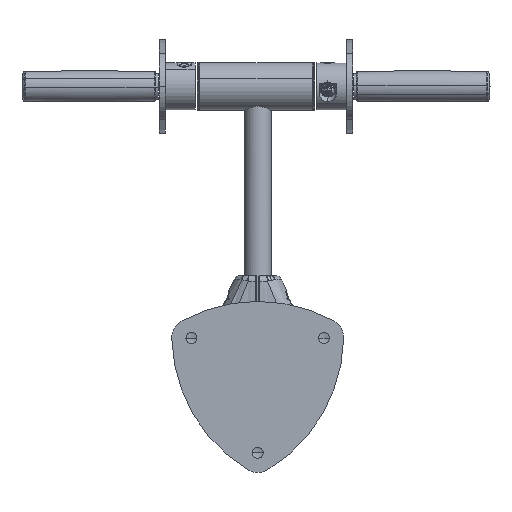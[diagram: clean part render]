
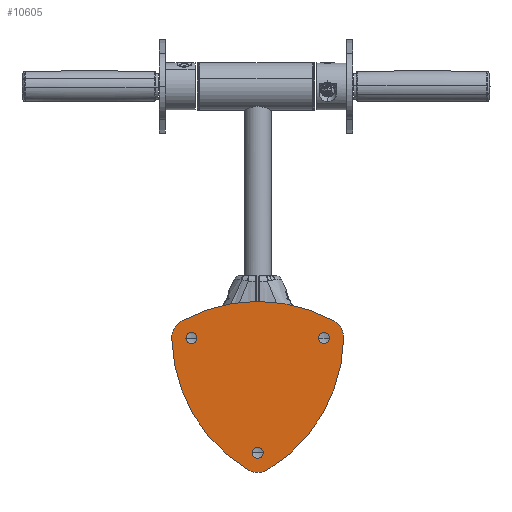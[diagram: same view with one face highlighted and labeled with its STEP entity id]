
A CAD part, front view. The second image highlights one B-rep face of the part: STEP entity #10605.
In plain terms, the highlighted planar face has unit normal (0, -1, 0).
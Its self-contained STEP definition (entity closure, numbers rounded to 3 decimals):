
#148 = ORIENTED_EDGE ( 'NONE', *, *, #14192, .F. ) ;
#188 = DIRECTION ( 'NONE',  ( 0., 1., 0. ) ) ;
#487 = CARTESIAN_POINT ( 'NONE',  ( 5.358, 0., -902.976 ) ) ;
#573 = CARTESIAN_POINT ( 'NONE',  ( -78.777, 0., -750.251 ) ) ;
#657 = DIRECTION ( 'NONE',  ( 0., 1., 0. ) ) ;
#784 = DIRECTION ( 'NONE',  ( 0., 0., 1. ) ) ;
#910 = CIRCLE ( 'NONE', #17119, 7. ) ;
#993 = EDGE_LOOP ( 'NONE', ( #8082, #12802 ) ) ;
#1379 = EDGE_LOOP ( 'NONE', ( #15187, #5976 ) ) ;
#1656 = CARTESIAN_POINT ( 'NONE',  ( 89.492, 0., -750.251 ) ) ;
#1662 = CIRCLE ( 'NONE', #13715, 25. ) ;
#1944 = AXIS2_PLACEMENT_3D ( 'NONE', #6043, #8822, #4994 ) ;
#2299 = DIRECTION ( 'NONE',  ( 0., 0., 1. ) ) ;
#2393 = CARTESIAN_POINT ( 'NONE',  ( 5.358, 0., -903.7 ) ) ;
#2652 = VERTEX_POINT ( 'NONE', #6133 ) ;
#2667 = AXIS2_PLACEMENT_3D ( 'NONE', #12030, #17763, #17658 ) ;
#2738 = EDGE_CURVE ( 'NONE', #11346, #2798, #5704, .T. ) ;
#2798 = VERTEX_POINT ( 'NONE', #13495 ) ;
#3181 = FACE_OUTER_BOUND ( 'NONE', #17885, .T. ) ;
#3283 = CARTESIAN_POINT ( 'NONE',  ( 5.358, 0., -895.976 ) ) ;
#3453 = EDGE_CURVE ( 'NONE', #2652, #12821, #12169, .T. ) ;
#3606 = DIRECTION ( 'NONE',  ( 0., 0., 1. ) ) ;
#3879 = DIRECTION ( 'NONE',  ( 0., 0., -1. ) ) ;
#3915 = VERTEX_POINT ( 'NONE', #6738 ) ;
#3919 = DIRECTION ( 'NONE',  ( 0., 1., 0. ) ) ;
#4113 = CIRCLE ( 'NONE', #10036, 7. ) ;
#4214 = CIRCLE ( 'NONE', #13067, 25. ) ;
#4276 = FACE_BOUND ( 'NONE', #1379, .T. ) ;
#4359 = PLANE ( 'NONE',  #14336 ) ;
#4372 = ORIENTED_EDGE ( 'NONE', *, *, #4961, .F. ) ;
#4744 = CIRCLE ( 'NONE', #15962, 200. ) ;
#4777 = CARTESIAN_POINT ( 'NONE',  ( 114.486, 0., -750.803 ) ) ;
#4904 = VERTEX_POINT ( 'NONE', #15720 ) ;
#4961 = EDGE_CURVE ( 'NONE', #12821, #3915, #4214, .T. ) ;
#4994 = DIRECTION ( 'NONE',  ( 0., 0., -1. ) ) ;
#5012 = CARTESIAN_POINT ( 'NONE',  ( -78.777, 0., -750.251 ) ) ;
#5076 = EDGE_CURVE ( 'NONE', #12990, #13097, #15147, .T. ) ;
#5508 = EDGE_CURVE ( 'NONE', #15524, #14257, #7203, .T. ) ;
#5704 = CIRCLE ( 'NONE', #10419, 7. ) ;
#5976 = ORIENTED_EDGE ( 'NONE', *, *, #16375, .T. ) ;
#6043 = CARTESIAN_POINT ( 'NONE',  ( -85.465, 0., -746.39 ) ) ;
#6133 = CARTESIAN_POINT ( 'NONE',  ( -7.617, 0., -917.346 ) ) ;
#6473 = DIRECTION ( 'NONE',  ( 0., 1., 0. ) ) ;
#6738 = CARTESIAN_POINT ( 'NONE',  ( -90.796, 0., -728.33 ) ) ;
#7039 = ORIENTED_EDGE ( 'NONE', *, *, #9915, .F. ) ;
#7203 = CIRCLE ( 'NONE', #15461, 7. ) ;
#7414 = DIRECTION ( 'NONE',  ( 0., 1., 0. ) ) ;
#7685 = EDGE_LOOP ( 'NONE', ( #8654, #8266 ) ) ;
#7898 = AXIS2_PLACEMENT_3D ( 'NONE', #13548, #657, #13195 ) ;
#7951 = AXIS2_PLACEMENT_3D ( 'NONE', #9653, #3919, #13885 ) ;
#8015 = ORIENTED_EDGE ( 'NONE', *, *, #5076, .F. ) ;
#8082 = ORIENTED_EDGE ( 'NONE', *, *, #13999, .T. ) ;
#8266 = ORIENTED_EDGE ( 'NONE', *, *, #16480, .T. ) ;
#8314 = CARTESIAN_POINT ( 'NONE',  ( -103.771, 0., -750.803 ) ) ;
#8363 = AXIS2_PLACEMENT_3D ( 'NONE', #16344, #6473, #3879 ) ;
#8654 = ORIENTED_EDGE ( 'NONE', *, *, #2738, .T. ) ;
#8699 = DIRECTION ( 'NONE',  ( 0., 0., 1. ) ) ;
#8822 = DIRECTION ( 'NONE',  ( 0., 1., 0. ) ) ;
#8916 = AXIS2_PLACEMENT_3D ( 'NONE', #11837, #11659, #8699 ) ;
#9306 = CARTESIAN_POINT ( 'NONE',  ( 101.511, 0., -728.33 ) ) ;
#9328 = EDGE_CURVE ( 'NONE', #14979, #14721, #12078, .T. ) ;
#9653 = CARTESIAN_POINT ( 'NONE',  ( 5.358, 0., -895.976 ) ) ;
#9870 = DIRECTION ( 'NONE',  ( 0., 0., 1. ) ) ;
#9915 = EDGE_CURVE ( 'NONE', #4904, #2652, #1662, .T. ) ;
#9921 = FACE_BOUND ( 'NONE', #7685, .T. ) ;
#9935 = EDGE_CURVE ( 'NONE', #13097, #15127, #15498, .T. ) ;
#10036 = AXIS2_PLACEMENT_3D ( 'NONE', #1656, #188, #9870 ) ;
#10248 = CARTESIAN_POINT ( 'NONE',  ( 89.492, 0., -750.251 ) ) ;
#10326 = CIRCLE ( 'NONE', #2667, 7. ) ;
#10419 = AXIS2_PLACEMENT_3D ( 'NONE', #5012, #13403, #784 ) ;
#10605 = ADVANCED_FACE ( 'NONE', ( #3181, #4276, #14426, #9921 ), #4359, .F. ) ;
#11128 = CARTESIAN_POINT ( 'NONE',  ( 89.492, 0., -743.251 ) ) ;
#11346 = VERTEX_POINT ( 'NONE', #14019 ) ;
#11491 = CARTESIAN_POINT ( 'NONE',  ( 8.702, 0., -748.32 ) ) ;
#11659 = DIRECTION ( 'NONE',  ( 0., 1., 0. ) ) ;
#11682 = DIRECTION ( 'NONE',  ( 0., 1., 0. ) ) ;
#11745 = DIRECTION ( 'NONE',  ( 0., 1., 0. ) ) ;
#11797 = CARTESIAN_POINT ( 'NONE',  ( 18.332, 0., -917.346 ) ) ;
#11819 = DIRECTION ( 'NONE',  ( 0., 1., 0. ) ) ;
#11837 = CARTESIAN_POINT ( 'NONE',  ( 96.181, 0., -746.39 ) ) ;
#11954 = ORIENTED_EDGE ( 'NONE', *, *, #17963, .F. ) ;
#12030 = CARTESIAN_POINT ( 'NONE',  ( 5.358, 0., -895.976 ) ) ;
#12078 = CIRCLE ( 'NONE', #7898, 7. ) ;
#12169 = CIRCLE ( 'NONE', #8916, 200. ) ;
#12802 = ORIENTED_EDGE ( 'NONE', *, *, #5508, .T. ) ;
#12821 = VERTEX_POINT ( 'NONE', #8314 ) ;
#12990 = VERTEX_POINT ( 'NONE', #9306 ) ;
#13044 = DIRECTION ( 'NONE',  ( 0., 0., 1. ) ) ;
#13067 = AXIS2_PLACEMENT_3D ( 'NONE', #13209, #11745, #3606 ) ;
#13097 = VERTEX_POINT ( 'NONE', #4777 ) ;
#13195 = DIRECTION ( 'NONE',  ( 0., 0., 1. ) ) ;
#13209 = CARTESIAN_POINT ( 'NONE',  ( -78.777, 0., -750.251 ) ) ;
#13259 = CIRCLE ( 'NONE', #7951, 25. ) ;
#13403 = DIRECTION ( 'NONE',  ( 0., 1., 0. ) ) ;
#13495 = CARTESIAN_POINT ( 'NONE',  ( -78.777, 0., -743.251 ) ) ;
#13548 = CARTESIAN_POINT ( 'NONE',  ( 5.358, 0., -895.976 ) ) ;
#13715 = AXIS2_PLACEMENT_3D ( 'NONE', #3283, #11682, #14965 ) ;
#13885 = DIRECTION ( 'NONE',  ( 0., 0., 1. ) ) ;
#13999 = EDGE_CURVE ( 'NONE', #14257, #15524, #4113, .T. ) ;
#14019 = CARTESIAN_POINT ( 'NONE',  ( -78.777, 0., -757.251 ) ) ;
#14192 = EDGE_CURVE ( 'NONE', #15127, #4904, #13259, .T. ) ;
#14257 = VERTEX_POINT ( 'NONE', #14434 ) ;
#14336 = AXIS2_PLACEMENT_3D ( 'NONE', #11491, #7414, #13044 ) ;
#14426 = FACE_BOUND ( 'NONE', #993, .T. ) ;
#14434 = CARTESIAN_POINT ( 'NONE',  ( 89.492, 0., -757.251 ) ) ;
#14483 = DIRECTION ( 'NONE',  ( 0., 0., 1. ) ) ;
#14721 = VERTEX_POINT ( 'NONE', #14960 ) ;
#14960 = CARTESIAN_POINT ( 'NONE',  ( 5.358, 0., -888.976 ) ) ;
#14965 = DIRECTION ( 'NONE',  ( 0., 0., 1. ) ) ;
#14979 = VERTEX_POINT ( 'NONE', #487 ) ;
#15127 = VERTEX_POINT ( 'NONE', #11797 ) ;
#15147 = CIRCLE ( 'NONE', #8363, 25. ) ;
#15178 = ORIENTED_EDGE ( 'NONE', *, *, #9935, .F. ) ;
#15187 = ORIENTED_EDGE ( 'NONE', *, *, #9328, .T. ) ;
#15461 = AXIS2_PLACEMENT_3D ( 'NONE', #10248, #15869, #14483 ) ;
#15498 = CIRCLE ( 'NONE', #1944, 200. ) ;
#15524 = VERTEX_POINT ( 'NONE', #11128 ) ;
#15720 = CARTESIAN_POINT ( 'NONE',  ( 5.358, 0., -920.976 ) ) ;
#15869 = DIRECTION ( 'NONE',  ( 0., 1., 0. ) ) ;
#15939 = ORIENTED_EDGE ( 'NONE', *, *, #3453, .F. ) ;
#15962 = AXIS2_PLACEMENT_3D ( 'NONE', #2393, #17625, #2299 ) ;
#16344 = CARTESIAN_POINT ( 'NONE',  ( 89.492, 0., -750.251 ) ) ;
#16375 = EDGE_CURVE ( 'NONE', #14721, #14979, #10326, .T. ) ;
#16480 = EDGE_CURVE ( 'NONE', #2798, #11346, #910, .T. ) ;
#17119 = AXIS2_PLACEMENT_3D ( 'NONE', #573, #11819, #17466 ) ;
#17466 = DIRECTION ( 'NONE',  ( 0., 0., 1. ) ) ;
#17625 = DIRECTION ( 'NONE',  ( 0., 1., 0. ) ) ;
#17658 = DIRECTION ( 'NONE',  ( 0., 0., 1. ) ) ;
#17763 = DIRECTION ( 'NONE',  ( 0., 1., 0. ) ) ;
#17885 = EDGE_LOOP ( 'NONE', ( #15939, #7039, #148, #15178, #8015, #11954, #4372 ) ) ;
#17963 = EDGE_CURVE ( 'NONE', #3915, #12990, #4744, .T. ) ;
